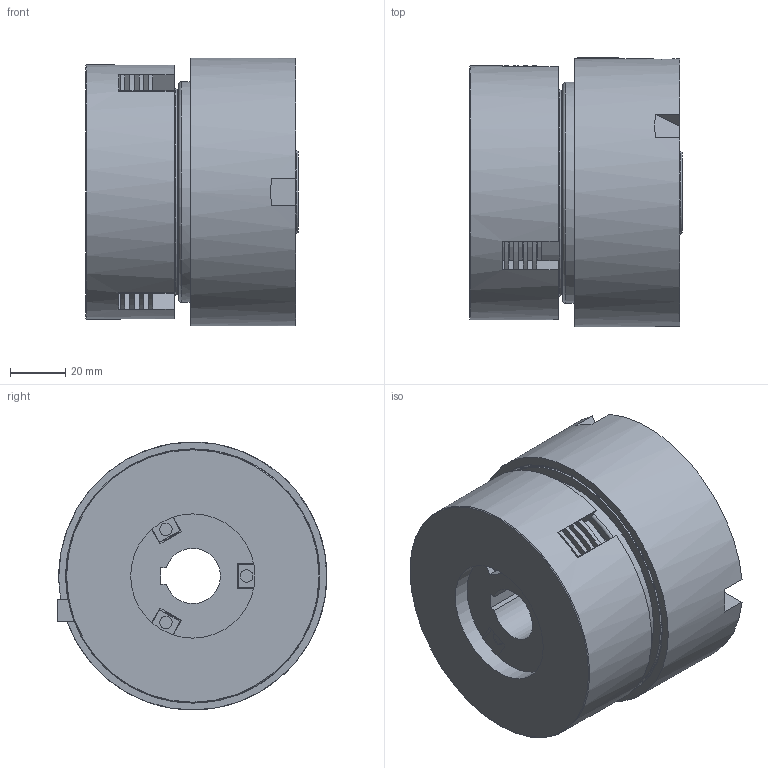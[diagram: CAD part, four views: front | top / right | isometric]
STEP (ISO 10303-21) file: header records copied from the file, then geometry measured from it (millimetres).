
FILE_DESCRIPTION(/* description */ (''),/* implementation_level */ '2;1');
FILE_NAME(/* name */ 'X:\INVENTOR\DISEGNI\03_Friz_Oleod_Pneum_Cil_Stat\03_08 LP\03_08_002_01 LP002\03_08_002_01 LP02@STEP.stp',/* time_stamp */ '2023-02-03T14:12:55+01:00',/* author */ ('alessio'),/* organization */ (''),/* preprocessor_version */ 'ST-DEVELOPER v18.1',/* originating_system */ 'Autodesk Inventor 2021',/* authorisation */ '');
FILE_SCHEMA (('AUTOMOTIVE_DESIGN { 1 0 10303 214 3 1 1 }'));
Products named in the file (1): 03_08_002_01 LP02
Bounding box: 77 x 97.6 x 97 mm (x, y, z)
Volume: 384779.7 mm3; surface area: 181682.7 mm2
Topology: 9 solids, 16 shells, 1277 faces, 3590 edges, 2378 vertices
Faces by surface type: plane 707, bspline 302, cylinder 152, torus 63, cone 33, sphere 20
Full cylindrical faces by diameter (mm): 2 x4, 2.4 x3, 2.75 x12, 3 x15, 3.242 x1, 4 x1, 4.5 x1, 5 x1, 7 x1, 7.5 x1, 8.566 x1, 28.6 x2, 30 x4, 38 x2, 40 x1, 45 x1, 46.5 x1, 47 x2, 48 x5, 50 x2, 55 x4, 59.6 x2, 60 x1, 62 x1, 65 x2, 68 x1, 70 x1, 70.4 x2, 75 x1, 78.2 x5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
Entity records: 51220 total; most frequent: CARTESIAN_POINT 18883, ORIENTED_EDGE 7096, DIRECTION 5336, EDGE_CURVE 3548, VERTEX_POINT 2378, LINE 2048, VECTOR 2048, AXIS2_PLACEMENT_3D 1644
